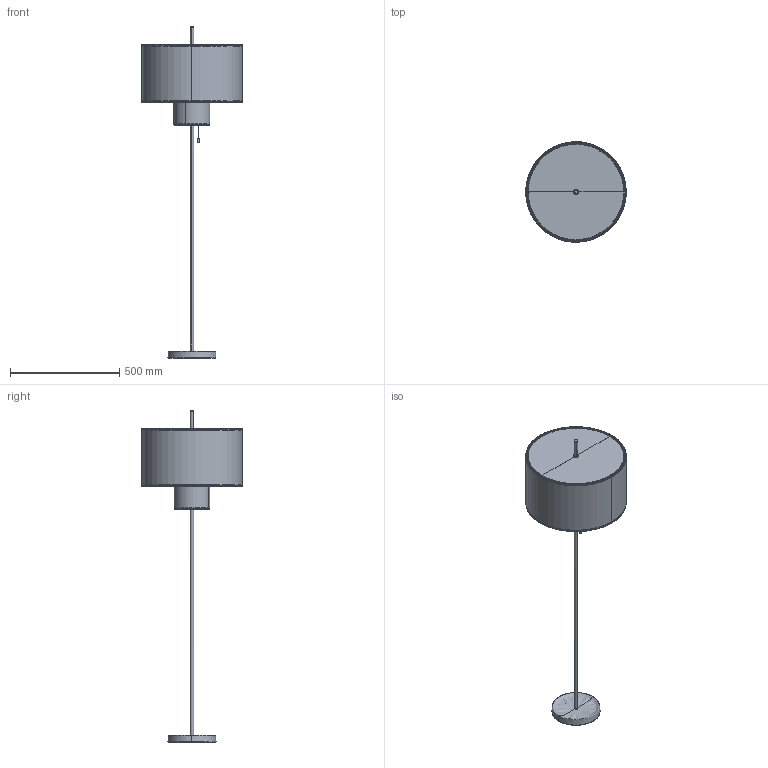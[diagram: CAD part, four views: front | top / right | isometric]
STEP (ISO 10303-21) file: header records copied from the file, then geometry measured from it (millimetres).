
FILE_DESCRIPTION (( 'STEP AP214' ), '1' );
FILE_NAME ('21350 Margin Floor Lamp.STEP', '2021-11-02T15:02:07', ( '' ), ( '' ), 'SwSTEP 2.0', 'SolidWorks 2021', '' );
FILE_SCHEMA (( 'AUTOMOTIVE_DESIGN' ));
Length unit declared in the file: millimetre
Products named in the file (1): 21350 Margin Floor Lamp
Bounding box: 459.77 x 460 x 1519.76 mm (x, y, z)
Surface area: 2391036.4 mm2 (no closed solid volume)
Topology: 0 solids, 61 shells, 2496 faces, 6836 edges, 4268 vertices
Faces by surface type: plane 1021, cylinder 938, bspline 537
Entity records: 97355 total; most frequent: CARTESIAN_POINT 52654, ORIENTED_EDGE 12930, EDGE_CURVE 6472, VERTEX_POINT 4268, B_SPLINE_CURVE_WITH_KNOTS 4035, DIRECTION 4020, EDGE_LOOP 2782, ADVANCED_FACE 2496
